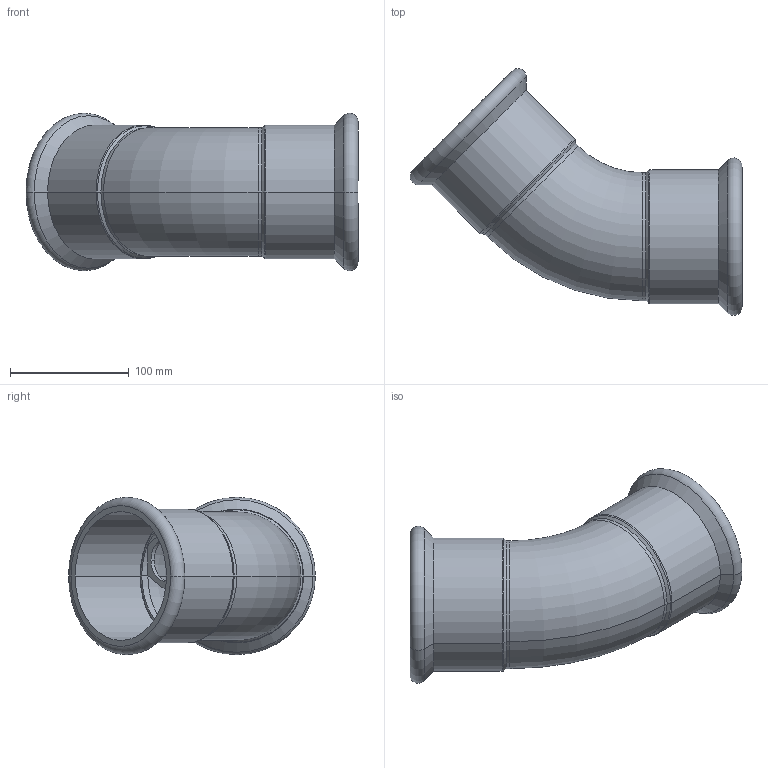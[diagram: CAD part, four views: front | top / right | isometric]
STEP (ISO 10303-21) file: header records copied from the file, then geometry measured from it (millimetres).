
FILE_DESCRIPTION(('OneSpaceDesigner STEP Export'),'2;1');
FILE_NAME('R2712 108x108.stp','2010-06-09T15:49:44',(''),(''),'OneSpace Designer STEP processor for AP214 (Solid Model)','OneSpace Modeling 15.00A 14-Mar-2007 (C) CoCreate Software GmbH','');
FILE_SCHEMA(('AUTOMOTIVE_DESIGN { 1 0 10303 214 1 1 1 1 }'));
Length unit declared in the file: millimetre
Products named in the file (2): R2712_108x108
Assembly tree (1 placements, depth 2):
  R2712_108x108
    R2712_108x108
Bounding box: 279.55 x 207.84 x 132.58 mm (x, y, z)
Volume: 308472.3 mm3; surface area: 213253.3 mm2
Topology: 1 solids, 1 shells, 118 faces, 292 edges, 186 vertices
Faces by surface type: plane 60, cylinder 38, torus 12, cone 8
Entity records: 3085 total; most frequent: ORIENTED_EDGE 584, CARTESIAN_POINT 500, DIRECTION 450, EDGE_CURVE 292, VERTEX_POINT 186, VECTOR 178, LINE 178, EDGE_LOOP 142
